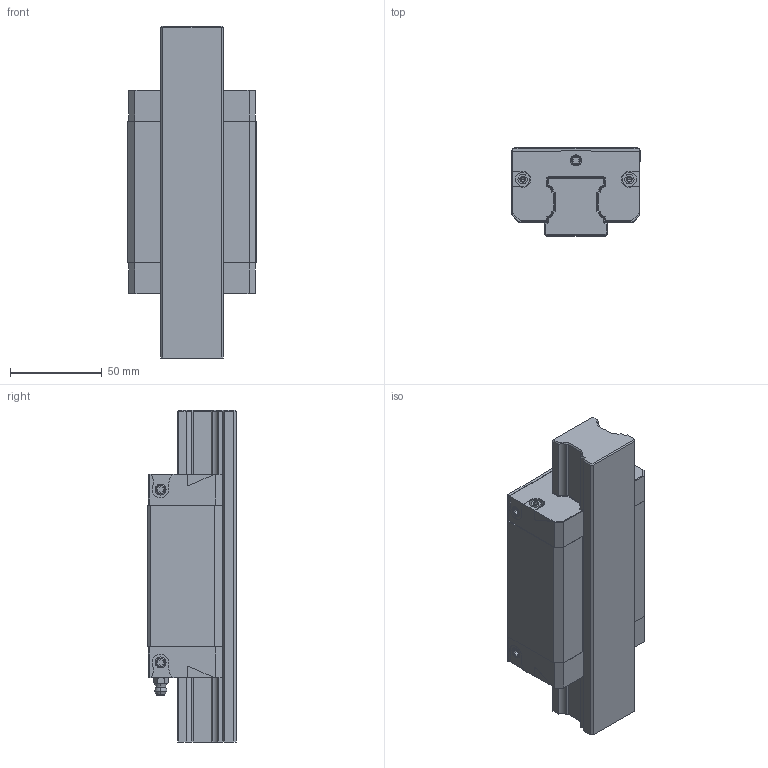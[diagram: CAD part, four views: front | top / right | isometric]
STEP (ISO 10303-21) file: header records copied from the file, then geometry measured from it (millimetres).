
FILE_DESCRIPTION((''),'2;1');
FILE_NAME('KWD_035_SNS_CS__ASM','2021-10-14T06:40:39',('ac91sw'),(''),'CREO PARAMETRIC BY PTC INC, 2020044','CREO PARAMETRIC BY PTC INC, 2020044','');
FILE_SCHEMA(('AUTOMOTIVE_DESIGN { 1 0 10303 214 1 1 1 1 }'));
Length unit declared in the file: millimetre
Products named in the file (7): KWD_035_SNS_CS__SKEL; R201130101; R200130102_Z; R343706101_Z; KWD_035_SNS_CS__PSF; R341700802_Z; KWD_035_SNS_CS__ASM
Assembly tree (11 placements, depth 2):
  KWD_035_SNS_CS__ASM
    KWD_035_SNS_CS__SKEL
    R201130101
    R200130102_Z  x2
    R343706101_Z  x5
    KWD_035_SNS_CS__PSF
    R341700802_Z
Bounding box: 70 x 48 x 180.5 mm (x, y, z)
Volume: 358906.3 mm3; surface area: 81510.8 mm2
Topology: 10 solids, 24 shells, 512 faces, 1310 edges, 830 vertices
Faces by surface type: plane 292, cylinder 142, cone 72, torus 4, sphere 2
Entity records: 16428 total; most frequent: CARTESIAN_POINT 1937, DIRECTION 1648, ORIENTED_EDGE 1540, PROPERTY_DEFINITION 824, REPRESENTATION 815, PROPERTY_DEFINITION_REPRESENTATION 815, EDGE_CURVE 786, DESCRIPTIVE_REPRESENTATION_ITEM 758
